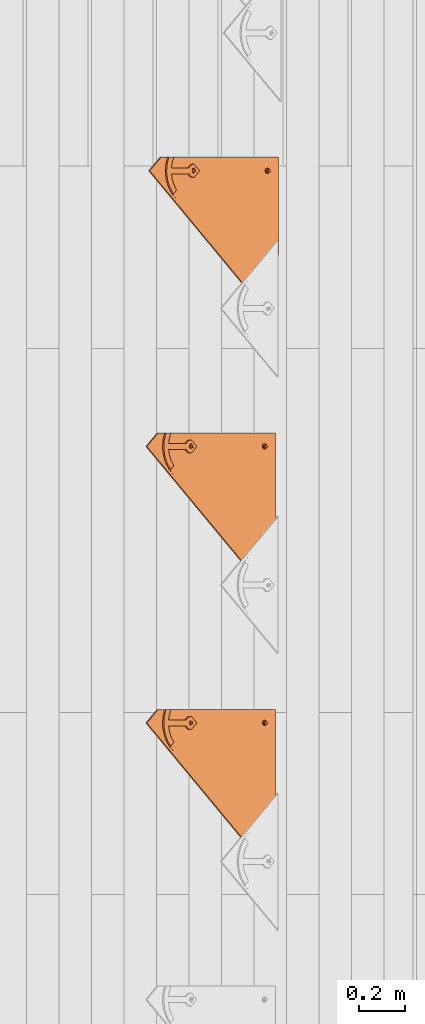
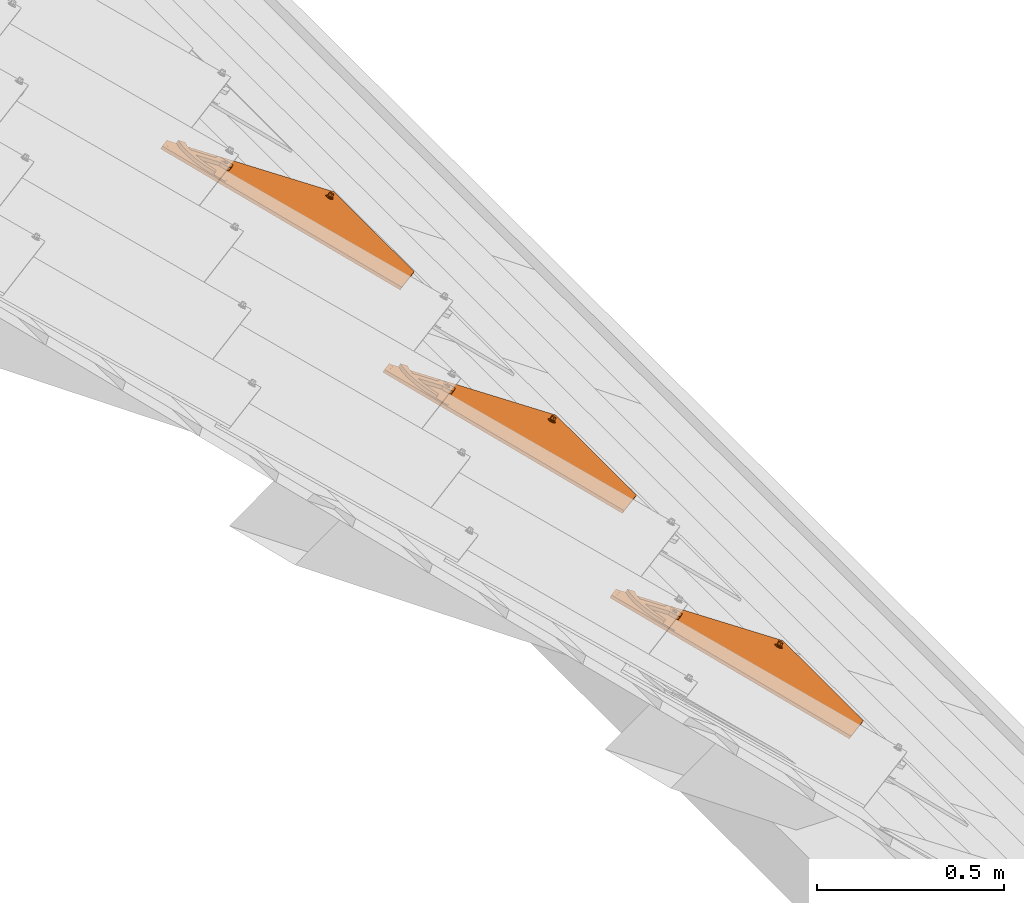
# One storey, part 117 of 133: 3 proxies.
"""IFC2X3 building model written with IfcOpenShell, lengths in millimetres."""

import ifcopenshell
import ifcopenshell.guid

model = None  # the IFC model being written
_history = None  # IfcOwnerHistory: only IFC2X3 demands one
_inside = {}  # id of a spatial element -> (the spatial element, [elements in it])
_under = {}  # id of a project, library or spatial element -> (it, [spatial elements below it])
_declared = {}  # id of a project -> (the project, [libraries it declares])
_typed = {}  # id of a type object -> (the type object, [elements of that type])
_made_of = {}  # id of a material, layer set ... -> (it, [elements and type objects made of it])


def new_model(schema):
    """Start an empty IFC model of exactly this schema.

    Asked for "IFC4X3", IfcOpenShell would pick the latest addendum, in which some entities
    have other attributes; the version numbers below select the first issue.
    IFC2X3 requires an IfcOwnerHistory on every rooted entity: one is made here for all.
    """
    global model, _history
    if schema == "IFC4X3":
        model = ifcopenshell.file(schema_version=(4, 3, 0, 0))
    else:
        model = ifcopenshell.file(schema=schema)
    _inside.clear()
    _under.clear()
    _declared.clear()
    _typed.clear()
    _made_of.clear()
    _history = None
    if model.schema == "IFC2X3":
        org = make("IfcOrganization", Name="unknown")
        user = make(
            "IfcPersonAndOrganization",
            ThePerson=make("IfcPerson", FamilyName="unknown"),
            TheOrganization=org,
        )
        app = make(
            "IfcApplication",
            ApplicationDeveloper=org,
            Version="unknown",
            ApplicationFullName="unknown",
            ApplicationIdentifier="unknown",
        )
        _history = make(
            "IfcOwnerHistory",
            OwningUser=user,
            OwningApplication=app,
            ChangeAction="ADDED",
            CreationDate=0,
        )
    return model


def make(cls, **values):
    """One entity of the class cls with the attributes given. An attribute that is None is left unset."""
    return model.create_entity(
        cls, **{name: value for name, value in values.items() if value is not None}
    )


def entity(cls, *values):
    """Any entity or typed value of the class cls, its attributes in the order of the schema. None: left unset."""
    e = model.create_entity(cls)
    for i, value in enumerate(values):
        if value is not None:
            e[i] = value
    return e


def rooted(cls, **values):
    """An entity with a GlobalId (a new one), such as an element, a storey or a relation."""
    return make(cls, GlobalId=ifcopenshell.guid.new(), OwnerHistory=_history, **values)


def si_unit(unit_type, name, prefix=None):
    """IfcSIUnit, for example si_unit("LENGTHUNIT", "METRE", prefix="MILLI")."""
    return make("IfcSIUnit", UnitType=unit_type, Prefix=prefix, Name=name)


def converted_unit(unit_type, name, factor, base, dimensions=None, offset=None):
    """IfcConversionBasedUnit, such as the inch: factor (a typed value) times the base unit."""
    return make(
        "IfcConversionBasedUnit"
        if offset is None
        else "IfcConversionBasedUnitWithOffset",
        ConversionOffset=offset,
        Dimensions=None
        if dimensions is None
        else entity("IfcDimensionalExponents", *dimensions),
        UnitType=unit_type,
        Name=name,
        ConversionFactor=make(
            "IfcMeasureWithUnit", ValueComponent=factor, UnitComponent=base
        ),
    )


def derived_unit(unit_type, elements):
    """IfcDerivedUnit: a product of units, each with its exponent."""
    return make(
        "IfcDerivedUnit",
        Elements=[
            make("IfcDerivedUnitElement", Unit=unit, Exponent=power)
            for unit, power in elements
        ],
        UnitType=unit_type,
    )


def assignment(units):
    """IfcUnitAssignment: the units of a project."""
    return None if units is None else make("IfcUnitAssignment", Units=units)


def point(xyz):
    """IfcCartesianPoint."""
    return None if xyz is None else make("IfcCartesianPoint", Coordinates=xyz)


def direction(xyz):
    """IfcDirection."""
    return None if xyz is None else make("IfcDirection", DirectionRatios=xyz)


def frame(location, z_axis=None, x_axis=None):
    """IfcAxis2Placement3D, a coordinate frame: its origin and axes. An axis left out is left unset."""
    return make(
        "IfcAxis2Placement3D",
        Location=point(location),
        Axis=direction(z_axis),
        RefDirection=direction(x_axis),
    )


def origin():
    """The frame at (0, 0, 0) with its axes left unset."""
    return frame((0.0, 0.0, 0.0))


def place(relative_to, where):
    """IfcLocalPlacement: puts the frame where relative to a parent placement (None: the world)."""
    return make(
        "IfcLocalPlacement", PlacementRelTo=relative_to, RelativePlacement=where
    )


def context(
    kind, dimensions, precision=None, world=None, true_north=None, identifier=None
):
    """IfcGeometricRepresentationContext, for example the 3D "Model" context."""
    return make(
        "IfcGeometricRepresentationContext",
        ContextIdentifier=identifier,
        ContextType=kind,
        CoordinateSpaceDimension=dimensions,
        Precision=precision,
        WorldCoordinateSystem=world,
        TrueNorth=true_north,
    )


def subcontext(parent, identifier, kind, view, scale=None):
    """IfcGeometricRepresentationSubContext, for example "Body" below "Model"."""
    return make(
        "IfcGeometricRepresentationSubContext",
        ContextIdentifier=identifier,
        ContextType=kind,
        ParentContext=parent,
        TargetScale=scale,
        TargetView=view,
    )


def project(units=None, contexts=None):
    """IfcProject with its units and contexts."""
    return rooted(
        "IfcProject",
        Name="project",
        RepresentationContexts=contexts,
        UnitsInContext=assignment(units),
    )


def spatial(cls, under=None, at=None, **own):
    """A site, building, storey or space (cls), placed at a placement, below another one or the project."""
    s = rooted(cls, ObjectPlacement=at, **own)
    if under is not None:
        _under.setdefault(under.id(), (under, []))[1].append(s)
    return s


def faces_of(points, faces, orient=None, outer=None):
    """IfcFace entities. A face is a list of loops; a loop is a list of indices into points, from 0.

    orient and outer hold one flag for each loop. By default every Orientation is true, the
    first loop of a face is its IfcFaceOuterBound and the others are IfcFaceBound.
    """
    made = []
    for i, loops in enumerate(faces):
        bounds = []
        for j, loop in enumerate(loops):
            is_outer = j == 0 if outer is None else outer[i][j]
            bounds.append(
                make(
                    "IfcFaceOuterBound" if is_outer else "IfcFaceBound",
                    Bound=make("IfcPolyLoop", Polygon=[points[k] for k in loop]),
                    Orientation=True if orient is None else orient[i][j],
                )
            )
        made.append(make("IfcFace", Bounds=bounds))
    return made


def faceted_brep(points, faces, orient=None, outer=None, voids=None):
    """IfcFacetedBrep: a solid bounded by flat faces; with voids (closed shells), ...WithVoids."""
    shared = [point(p) for p in points]
    hull = make("IfcClosedShell", CfsFaces=faces_of(shared, faces, orient, outer))
    if voids is None:
        return make("IfcFacetedBrep", Outer=hull)
    return make(
        "IfcFacetedBrepWithVoids",
        Outer=hull,
        Voids=[
            make(cls, CfsFaces=faces_of(shared, fs, o, b)) for cls, fs, o, b in voids
        ],
    )


def shape(context_of_items, identifier, shape_type, items):
    """IfcShapeRepresentation: the items that make up one representation, for example the "Body"."""
    return make(
        "IfcShapeRepresentation",
        ContextOfItems=context_of_items,
        RepresentationIdentifier=identifier,
        RepresentationType=shape_type,
        Items=items,
    )


def source(mapping_origin, context_of_items, identifier, shape_type, items):
    """IfcRepresentationMap: a shape defined once, which mapped items show again and again."""
    return make(
        "IfcRepresentationMap",
        MappingOrigin=mapping_origin,
        MappedRepresentation=shape(context_of_items, identifier, shape_type, items),
    )


def transform(
    local_origin,
    x_axis=None,
    y_axis=None,
    z_axis=None,
    scale=None,
    scale2=None,
    scale3=None,
    uniform=True,
):
    """IfcCartesianTransformationOperator3D, or its non-uniform kind. x_axis, y_axis, z_axis: its Axis1, 2, 3."""
    if uniform:
        return make(
            "IfcCartesianTransformationOperator3D",
            Axis1=direction(x_axis),
            Axis2=direction(y_axis),
            LocalOrigin=point(local_origin),
            Scale=scale,
            Axis3=direction(z_axis),
        )
    return make(
        "IfcCartesianTransformationOperator3DnonUniform",
        Axis1=direction(x_axis),
        Axis2=direction(y_axis),
        LocalOrigin=point(local_origin),
        Scale=scale,
        Axis3=direction(z_axis),
        Scale2=scale2,
        Scale3=scale3,
    )


def mapped(mapping_source, mapping_target):
    """IfcMappedItem: shows the shape of a source again, moved by a transform."""
    return make(
        "IfcMappedItem", MappingSource=mapping_source, MappingTarget=mapping_target
    )


def material(Name=None, Category=None):
    """IfcMaterial."""
    return make("IfcMaterial", Name=Name, Category=Category)


def material_list(materials):
    """IfcMaterialList."""
    return make("IfcMaterialList", Materials=materials)


def made_of(thing, what):
    """Note that an element or type object is made of a material, layer set ...; save() writes the relation."""
    if what is not None:
        _made_of.setdefault(what.id(), (what, []))[1].append(thing)
    return thing


def type_object(cls, material=None, **own):
    """A type object (cls), such as IfcWallType, which elements share."""
    return made_of(rooted(cls, **own), material)


def type_shapes(of_type, sources):
    """Give a type object the sources (RepresentationMaps) that its elements show as mapped items."""
    of_type.RepresentationMaps = sources


def element(
    cls,
    number,
    at=None,
    inside=None,
    cuts=None,
    type_object=None,
    material=None,
    context=None,
    identifier="Body",
    shape_type=None,
    held_by="IfcProductDefinitionShape",
    body=None,
    shapes=None,
    **own,
):
    """One element of the class cls, such as IfcWall. Its Tag is "e" and its number.

    at: its placement. inside: the storey or other place that contains it. cuts: it is an
    opening in that element (IfcRelVoidsElement). A single representation is given by context,
    identifier, shape_type and body (its items); several are given by shapes. held_by: the class
    of the entity that holds the representations. save() writes the other relations.
    """
    e = rooted(cls, Tag="e%d" % number, ObjectPlacement=at, **own)
    if body is not None:
        shapes = [shape(context, identifier, shape_type, body)]
    if shapes is not None:
        e.Representation = make(held_by, Representations=shapes)
    if inside is not None:
        _inside.setdefault(inside.id(), (inside, []))[1].append(e)
    if cuts is not None:
        rooted(
            "IfcRelVoidsElement", RelatingBuildingElement=cuts, RelatedOpeningElement=e
        )
    if type_object is not None:
        _typed.setdefault(type_object.id(), (type_object, []))[1].append(e)
    return made_of(e, material)


def aggregate(whole, parts):
    """IfcRelAggregates: a whole, such as a stair, and the parts it consists of."""
    return rooted("IfcRelAggregates", RelatingObject=whole, RelatedObjects=parts)


def save(model, path):
    """Write the relations noted so far, then the file.

    IfcRelAggregates (storeys below a building ...), IfcRelContainedInSpatialStructure (elements
    in a storey), IfcRelDefinesByType, IfcRelAssociatesMaterial and IfcRelDeclares: one each for
    every whole, place, type object, material and project.
    """
    for whole, parts in _under.values():
        aggregate(whole, parts)
    for where, things in _inside.values():
        rooted(
            "IfcRelContainedInSpatialStructure",
            RelatedElements=things,
            RelatingStructure=where,
        )
    for kind, things in _typed.values():
        rooted("IfcRelDefinesByType", RelatedObjects=things, RelatingType=kind)
    for what, things in _made_of.values():
        rooted("IfcRelAssociatesMaterial", RelatedObjects=things, RelatingMaterial=what)
    for by, libraries in _declared.values():
        rooted("IfcRelDeclares", RelatingContext=by, RelatedDefinitions=libraries)
    model.write(path)


model = new_model("IFC2X3")

# Units and contexts
model_context = context("Model", 3, precision=0.01, world=origin(), true_north=direction((6.12303176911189e-17, 1.0)))
body_context = subcontext(model_context, "Body", "Model", "MODEL_VIEW")
ifc_project = project(units=[si_unit("LENGTHUNIT", "METRE", prefix="MILLI"), si_unit("AREAUNIT", "SQUARE_METRE"), si_unit("VOLUMEUNIT", "CUBIC_METRE"), converted_unit("PLANEANGLEUNIT", "DEGREE", entity("IfcRatioMeasure", 0.0174532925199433), si_unit("PLANEANGLEUNIT", "RADIAN"), dimensions=[0, 0, 0, 0, 0, 0, 0]), si_unit("MASSUNIT", "GRAM", prefix="KILO"), derived_unit("MASSDENSITYUNIT", [(si_unit("MASSUNIT", "GRAM", prefix="KILO"), 1), (si_unit("LENGTHUNIT", "METRE"), -3)]), si_unit("TIMEUNIT", "SECOND"), si_unit("FREQUENCYUNIT", "HERTZ"), si_unit("THERMODYNAMICTEMPERATUREUNIT", "DEGREE_CELSIUS"), derived_unit("THERMALTRANSMITTANCEUNIT", [(si_unit("MASSUNIT", "GRAM", prefix="KILO"), 1), (si_unit("THERMODYNAMICTEMPERATUREUNIT", "KELVIN"), -1), (si_unit("TIMEUNIT", "SECOND"), -3)]), derived_unit("VOLUMETRICFLOWRATEUNIT", [(si_unit("LENGTHUNIT", "METRE"), 3), (si_unit("TIMEUNIT", "SECOND"), -1)]), si_unit("ELECTRICCURRENTUNIT", "AMPERE"), si_unit("ELECTRICVOLTAGEUNIT", "VOLT"), si_unit("POWERUNIT", "WATT"), si_unit("FORCEUNIT", "NEWTON", prefix="KILO"), si_unit("ILLUMINANCEUNIT", "LUX"), si_unit("LUMINOUSFLUXUNIT", "LUMEN"), si_unit("LUMINOUSINTENSITYUNIT", "CANDELA"), derived_unit("USERDEFINED", [(si_unit("MASSUNIT", "GRAM", prefix="KILO"), -1), (si_unit("LENGTHUNIT", "METRE"), -2), (si_unit("TIMEUNIT", "SECOND"), 3), (si_unit("LUMINOUSFLUXUNIT", "LUMEN"), 1)]), derived_unit("LINEARVELOCITYUNIT", [(si_unit("LENGTHUNIT", "METRE"), 1), (si_unit("TIMEUNIT", "SECOND"), -1)]), si_unit("PRESSUREUNIT", "PASCAL"), derived_unit("USERDEFINED", [(si_unit("LENGTHUNIT", "METRE"), -2), (si_unit("MASSUNIT", "GRAM", prefix="KILO"), 1), (si_unit("TIMEUNIT", "SECOND"), -2)])], contexts=[model_context])

# Site, building, storey
site_placement = place(None, origin())
site = spatial("IfcSite", under=ifc_project, at=site_placement, Name="Default", CompositionType="ELEMENT")
building_placement = place(site_placement, origin())
building = spatial("IfcBuilding", under=site, at=building_placement, CompositionType="ELEMENT")
storey_placement = place(building_placement, origin())
storey = spatial("IfcBuildingStorey", under=building, at=storey_placement, Name="Level 1", CompositionType="ELEMENT", Elevation=0.0)

# Proxies
ifc_material_1 = material(Name="Rubber - Sunstyle - Black")
ifc_material_2 = material(Name="Glass - Sunstyle - Tainted Black")
ifc_material_list_1 = material_list([ifc_material_1, ifc_material_2])
ifc_material_list_2 = material_list([ifc_material_1, ifc_material_2])
building_element_proxy_type = type_object("IfcBuildingElementProxyType", Name="Corner Bottom Big Right - Black", PredefinedType="NOTDEFINED", material=ifc_material_list_2)
shared_shape = source(origin(), body_context, "Body", "Brep", [
    faceted_brep([(0.270009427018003, -2.025866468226, -4.01619789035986), (-5.50419340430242, -5.35913660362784, -3.96037390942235), (-5.50419340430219, -4.99082751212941, 18.0314954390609), (0.270009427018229, -1.65755737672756, 17.9756714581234), (-5.50419340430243, -12.0256768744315, -3.84872594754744), (-5.5041934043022, -11.6573677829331, 18.1431434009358), (0.270009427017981, -15.3589470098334, -3.79290196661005), (0.270009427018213, -14.990637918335, 18.1989673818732), (6.04421225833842, -12.0256768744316, -3.84872594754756), (6.04421225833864, -11.6573677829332, 18.1431434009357), (6.04421225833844, -5.35913660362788, -3.96037390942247), (6.04421225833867, -4.99082751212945, 18.0314954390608), (-8.3336947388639, -16.9265954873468, 18.2313898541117), (0.27000942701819, -20.4898667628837, 18.2910657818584), (-11.8974656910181, -8.32409764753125, 18.0873194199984), (-8.33369473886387, 0.278400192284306, 17.9432489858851), (0.270009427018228, 3.84167146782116, 17.8835730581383), (8.87371359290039, 0.278400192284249, 17.9432489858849), (12.4374845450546, -8.32409764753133, 18.0873194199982), (8.87371359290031, -16.9265954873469, 18.2313898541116), (-11.1602134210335, -6.95050198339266, 20.4858706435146), (-9.50050407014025, -8.25322861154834, 22.3189355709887), (0.270009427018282, -0.940007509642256, 22.9603444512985), (0.27000942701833, 0.300490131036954, 22.3799978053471), (0.270009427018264, 2.4580409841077, 21.3706227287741), (-6.05323627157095, -4.59022324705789, 23.0214764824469), (-6.05323627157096, -11.8906547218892, 23.1437405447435), (0.270009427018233, -18.990246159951, 21.7298281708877), (0.270009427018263, -15.5408704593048, 23.2048725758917), (11.2551842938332, -12.0411541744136, 20.3827540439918), (10.3938597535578, -8.25726753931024, 22.077768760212), (6.59325512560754, -4.59022324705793, 23.0214764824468), (6.5932551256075, -11.8906547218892, 23.1437405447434), (-6.05323627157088, -11.7566262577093, 31.1466287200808), (0.270009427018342, -15.4068419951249, 31.207760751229), (0.270009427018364, -8.10641052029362, 31.0854966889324), (-6.05323627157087, -4.456194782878, 31.0243646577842), (6.59325512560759, -11.7566262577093, 31.1466287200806), (6.59325512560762, -4.45619478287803, 31.024364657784), (0.270009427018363, -0.805979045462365, 30.9632326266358), (0.270009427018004, -8.69240673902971, -3.90454992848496)], [[[0, 1, 2, 3]], [[1, 4, 5, 2]], [[4, 6, 7, 5]], [[6, 8, 9, 7]], [[8, 10, 11, 9]], [[10, 0, 3, 11]], [[12, 7, 13]], [[7, 12, 5]], [[14, 5, 12]], [[5, 14, 2]], [[15, 2, 14]], [[3, 2, 15]], [[15, 16, 3]], [[16, 17, 3]], [[11, 3, 17]], [[11, 17, 18]], [[9, 11, 18]], [[18, 19, 9]], [[7, 9, 19]], [[19, 13, 7]], [[15, 20, 16]], [[21, 22, 23, 24]], [[22, 21, 25]], [[20, 14, 12]], [[15, 14, 20]], [[25, 21, 26]], [[20, 24, 16]], [[12, 13, 27]], [[12, 27, 20]], [[21, 28, 26]], [[21, 27, 28]], [[20, 21, 24]], [[20, 27, 21]], [[19, 29, 13]], [[30, 23, 31]], [[30, 28, 27]], [[24, 23, 30]], [[29, 27, 13]], [[19, 18, 29]], [[29, 30, 27]], [[29, 17, 24]], [[24, 17, 16]], [[31, 32, 30]], [[23, 22, 31]], [[28, 30, 32]], [[29, 24, 30]], [[29, 18, 17]], [[33, 34, 35]], [[35, 36, 33]], [[34, 37, 35]], [[38, 35, 37]], [[35, 38, 39]], [[35, 39, 36]], [[40, 6, 4]], [[4, 1, 40]], [[1, 0, 40]], [[40, 8, 6]], [[0, 10, 40]], [[8, 40, 10]], [[22, 25, 36, 39]], [[25, 26, 33, 36]], [[26, 28, 34, 33]], [[28, 32, 37, 34]], [[32, 31, 38, 37]], [[31, 22, 39, 38]]]),
    faceted_brep([(-518.247351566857, 79.9143812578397, 14.9652572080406), (-518.247351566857, 79.9394990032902, 16.4650468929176), (-526.732038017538, 88.4241854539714, 16.3229495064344), (-526.732038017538, 88.399067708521, 14.8231598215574), (-0.00032251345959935, 614.98308737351, 6.00418773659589), (60.1037538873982, 554.895864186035, 7.01049921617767), (51.6190674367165, 546.411177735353, 7.15259660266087), (-0.000322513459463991, 598.016093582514, 6.28834266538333), (-0.000322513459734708, 615.00820511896, 7.50397742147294), (-0.000322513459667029, 598.041211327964, 7.78813235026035), (51.6190674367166, 546.436295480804, 8.65238628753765), (60.1037538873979, 554.920981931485, 8.51028890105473)], [[[0, 1, 2, 3]], [[0, 3, 4, 5, 6, 7]], [[3, 2, 8, 4]], [[2, 1, 9, 10, 11, 8]], [[1, 0, 7, 9]], [[6, 5, 11, 10]], [[4, 8, 11, 5]], [[9, 7, 6, 10]]]),
    faceted_brep([(0.0, 372.774440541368, 20.3195200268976), (0.0, 377.273809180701, 20.2441667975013), (-8.60370416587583, 376.337711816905, 20.2598440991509), (8.60370416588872, 376.337711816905, 20.2598440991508), (6.64022859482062, 381.107009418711, 20.1799702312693), (12.1674751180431, 384.940209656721, 20.1157736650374), (6.64022859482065, 388.773409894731, 20.0515770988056), (8.6037041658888, 393.542707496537, 19.9717032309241), (0.0, 392.606610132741, 19.9873805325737), (0.0, 397.105978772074, 19.9120273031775), (-8.60370416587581, 393.542707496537, 19.9717032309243), (-6.64022859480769, 388.773409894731, 20.0515770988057), (-12.1674751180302, 384.940209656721, 20.1157736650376), (-6.6402285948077, 381.107009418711, 20.1799702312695), (-6.6402282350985, 388.505487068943, 4.05382046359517), (0.0, 392.338687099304, 3.98962390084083), (-6.64022823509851, 380.839087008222, 4.18221358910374), (0.0, 377.005886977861, 4.24641015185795), (6.64022823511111, 380.839087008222, 4.1822135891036), (6.64022823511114, 388.505487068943, 4.05382046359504), (-8.603704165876, 376.069789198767, 4.26208746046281), (0.0, 372.50651792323, 4.32176338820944), (-12.1674751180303, 384.672287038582, 4.11801702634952), (-8.60370416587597, 393.274784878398, 3.97394659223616), (0.0, 396.838056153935, 3.91427066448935), (8.60370416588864, 393.274784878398, 3.97394659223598), (12.1674751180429, 384.672287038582, 4.11801702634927), (8.60370416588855, 376.069789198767, 4.26208746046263)], [[[0, 1, 2]], [[1, 0, 3]], [[3, 4, 1]], [[4, 3, 5]], [[6, 4, 5]], [[5, 7, 6]], [[7, 8, 6]], [[8, 7, 9]], [[8, 9, 10]], [[10, 11, 8]], [[12, 11, 10]], [[2, 13, 12]], [[12, 13, 11]], [[13, 2, 1]], [[8, 11, 14, 15]], [[11, 13, 16, 14]], [[13, 1, 17, 16]], [[1, 4, 18, 17]], [[4, 6, 19, 18]], [[6, 8, 15, 19]], [[20, 17, 21]], [[17, 20, 16]], [[22, 16, 20]], [[14, 16, 22]], [[23, 14, 22]], [[15, 14, 23]], [[23, 24, 15]], [[24, 25, 15]], [[19, 15, 25]], [[19, 25, 26]], [[26, 18, 19]], [[26, 27, 18]], [[17, 18, 27]], [[27, 21, 17]], [[24, 23, 10, 9]], [[10, 23, 22, 12]], [[20, 21, 0, 2]], [[20, 2, 12, 22]], [[21, 27, 3, 0]], [[3, 27, 26, 5]], [[25, 24, 9, 7]], [[25, 7, 5, 26]]]),
    faceted_brep([(-10.3923048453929, 390.78484910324, 9.75895037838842), (-8.48528137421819, 393.269782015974, 9.7173339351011), (-0.00032251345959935, 614.983087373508, 6.0041877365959), (-11.5911099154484, 387.891083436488, 9.8074137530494), (-6.0, 395.176538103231, 9.68540051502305), (-3.10582854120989, 396.37517508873, 9.6653263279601), (60.1037538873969, 554.895864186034, 7.01049921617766), (0.0, 396.784007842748, 9.65847939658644), (3.1058285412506, 396.37517508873, 9.6653263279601), (6.0, 395.176538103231, 9.68540051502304), (8.48528137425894, 393.269782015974, 9.7173339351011), (10.3923048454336, 390.784849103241, 9.75895037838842), (11.5911099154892, 387.891083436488, 9.8074137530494), (12.0, 384.785690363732, 9.8594213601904), (11.5911099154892, 381.680297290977, 9.9114289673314), (60.103753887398, -67.933460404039, 17.4413406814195), (10.3923048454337, 378.786531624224, 9.95989234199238), (6.58173564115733, -3.94243384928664, 16.369650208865), (8.48528137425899, 376.301598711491, 10.0015087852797), (5.31038666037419, -2.28581190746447, 16.3419059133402), (6.0, 374.394842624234, 10.0334422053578), (3.65353241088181, -1.01464118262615, 16.3206169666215), (3.10582854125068, 373.196205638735, 10.0535163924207), (1.72408477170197, -0.215549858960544, 16.3072341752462), (0.0, 372.787372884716, 10.0603633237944), (-0.346467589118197, 0.0570053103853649, 16.3026695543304), (-2.41701994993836, -0.215549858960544, 16.3072341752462), (-3.10582854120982, 373.196205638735, 10.0535163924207), (-4.34646758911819, -1.01464118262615, 16.3206169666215), (-6.0, 374.394842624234, 10.0334422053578), (-6.00332183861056, -2.28581190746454, 16.3419059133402), (-8.48528137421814, 376.301598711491, 10.0015087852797), (-370.355661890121, -67.9334604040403, 17.4413406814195), (-10.3923048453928, 378.786531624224, 9.95989234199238), (-526.732038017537, 88.3990677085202, 14.8231598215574), (-11.5911099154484, 381.680297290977, 9.9114289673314), (-12.0, 384.785690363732, 9.8594213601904), (-7.27467081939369, -3.94243384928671, 16.369650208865), (-8.07387419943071, -5.87161096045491, 16.4019591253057), (-8.34646758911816, -7.94187300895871, 16.4366308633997), (-8.0738741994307, -10.0121350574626, 16.4713026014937), (-7.27467081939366, -11.9413121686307, 16.5036115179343), (-6.00332183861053, -13.5979341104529, 16.5313558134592), (-4.34646758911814, -14.8691048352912, 16.5526447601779), (-2.41701994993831, -15.6681961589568, 16.5660275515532), (7.38093902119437, -5.87161096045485, 16.4019591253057), (7.65353241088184, -7.94187300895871, 16.4366308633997), (7.38093902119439, -10.0121350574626, 16.4713026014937), (6.58173564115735, -11.9413121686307, 16.5036115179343), (5.31038666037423, -13.5979341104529, 16.5313558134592), (3.65353241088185, -14.8691048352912, 16.5526447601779), (1.72408477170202, -15.6681961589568, 16.5660275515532), (-0.346467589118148, -15.9407513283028, 16.570592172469), (-370.355661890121, -68.0590491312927, 9.94239225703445), (-8.0738741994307, -10.1377237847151, 8.97235417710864), (-7.27467081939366, -12.0669008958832, 9.00466309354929), (-8.34646758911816, -8.06746173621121, 8.93768243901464), (-6.00332183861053, -13.7235228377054, 9.03240738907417), (-4.34646758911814, -14.9946935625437, 9.05369633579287), (60.103753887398, -68.0590491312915, 9.94239225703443), (-8.07387419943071, -5.99719968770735, 8.90301070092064), (-7.27467081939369, -4.06802257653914, 8.87070178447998), (-6.00332183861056, -2.41140063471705, 8.8429574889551), (-8.48528137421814, 376.176009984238, 2.50256036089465), (-10.3923048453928, 378.660942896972, 2.46094391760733), (-526.732038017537, 88.2734789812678, 7.32421139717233), (-11.5911099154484, 381.554708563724, 2.41248054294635), (-12.0, 384.66010163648, 2.36047293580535), (-11.5911099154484, 387.765494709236, 2.30846532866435), (-0.00032251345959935, 614.857498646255, -1.49476068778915), (-10.3923048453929, 390.659260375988, 2.26000195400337), (-8.48528137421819, 393.144193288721, 2.21838551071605), (-6.0, 395.050949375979, 2.18645209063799), (-3.10582854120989, 396.249586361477, 2.16637790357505), (60.1037538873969, 554.770275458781, -0.488449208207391), (0.0, 396.658419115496, 2.15953097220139), (3.1058285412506, 396.249586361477, 2.16637790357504), (6.0, 395.050949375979, 2.18645209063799), (8.48528137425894, 393.144193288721, 2.21838551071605), (10.3923048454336, 390.659260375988, 2.26000195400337), (11.5911099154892, 387.765494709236, 2.30846532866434), (12.0, 384.66010163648, 2.36047293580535), (11.5911099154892, 381.554708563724, 2.41248054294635), (-2.41701994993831, -15.7937848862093, 9.06707912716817), (-0.346467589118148, -16.0663400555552, 9.07164374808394), (1.72408477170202, -15.7937848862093, 9.06707912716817), (3.65353241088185, -14.9946935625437, 9.05369633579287), (5.31038666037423, -13.7235228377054, 9.03240738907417), (6.58173564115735, -12.0669008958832, 9.00466309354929), (7.38093902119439, -10.1377237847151, 8.97235417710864), (7.65353241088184, -8.06746173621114, 8.93768243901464), (7.38093902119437, -5.99719968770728, 8.90301070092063), (6.58173564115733, -4.06802257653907, 8.87070178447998), (10.3923048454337, 378.660942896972, 2.46094391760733), (-6.0, 374.269253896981, 2.5344937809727), (-4.34646758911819, -1.14022990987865, 8.8216685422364), (-3.10582854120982, 373.070616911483, 2.55456796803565), (-2.41701994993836, -0.341138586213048, 8.8082857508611), (0.0, 372.661784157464, 2.56141489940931), (-0.346467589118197, -0.0685834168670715, 8.80372112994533), (1.72408477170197, -0.341138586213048, 8.8082857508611), (3.10582854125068, 373.070616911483, 2.55456796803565), (3.65353241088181, -1.14022990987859, 8.8216685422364), (6.0, 374.269253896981, 2.5344937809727), (5.31038666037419, -2.41140063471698, 8.8429574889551), (8.48528137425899, 376.176009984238, 2.50256036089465)], [[[0, 1, 2]], [[3, 0, 2]], [[4, 2, 1]], [[2, 4, 5]], [[6, 2, 5]], [[7, 6, 5]], [[7, 8, 6]], [[8, 9, 6]], [[10, 6, 9]], [[6, 10, 11]], [[6, 11, 12]], [[12, 13, 6]], [[13, 14, 6]], [[6, 14, 15]], [[14, 16, 15]], [[17, 15, 16]], [[18, 17, 16]], [[17, 18, 19]], [[18, 20, 19]], [[21, 19, 20]], [[20, 22, 21]], [[23, 21, 22]], [[24, 23, 22]], [[23, 24, 25]], [[26, 25, 24]], [[24, 27, 26]], [[26, 27, 28]], [[29, 28, 27]], [[28, 29, 30]], [[29, 31, 30]], [[32, 30, 31]], [[33, 32, 31]], [[33, 34, 32]], [[33, 35, 34]], [[35, 36, 34]], [[36, 3, 34]], [[3, 2, 34]], [[30, 32, 37]], [[37, 32, 38]], [[32, 39, 38]], [[39, 32, 40]], [[40, 32, 41]], [[42, 41, 32]], [[42, 32, 43]], [[43, 32, 15]], [[15, 44, 43]], [[17, 45, 15]], [[45, 46, 15]], [[47, 15, 46]], [[47, 48, 15]], [[49, 15, 48]], [[15, 49, 50]], [[50, 51, 15]], [[51, 52, 15]], [[52, 44, 15]], [[53, 54, 55]], [[54, 53, 56]], [[53, 55, 57]], [[57, 58, 53]], [[53, 58, 59]], [[60, 56, 53]], [[61, 60, 53]], [[61, 53, 62]], [[63, 62, 53]], [[64, 63, 53]], [[65, 64, 53]], [[65, 66, 64]], [[66, 65, 67]], [[67, 65, 68]], [[65, 69, 68]], [[70, 68, 69]], [[71, 70, 69]], [[72, 71, 69]], [[69, 73, 72]], [[74, 73, 69]], [[75, 73, 74]], [[76, 75, 74]], [[77, 76, 74]], [[74, 78, 77]], [[78, 74, 79]], [[80, 79, 74]], [[80, 74, 81]], [[82, 81, 74]], [[82, 74, 59]], [[59, 58, 83]], [[84, 59, 83]], [[84, 85, 59]], [[85, 86, 59]], [[87, 59, 86]], [[59, 87, 88]], [[59, 88, 89]], [[89, 90, 59]], [[90, 91, 59]], [[91, 92, 59]], [[92, 93, 59]], [[93, 82, 59]], [[94, 62, 63]], [[94, 95, 62]], [[96, 95, 94]], [[97, 95, 96]], [[96, 98, 97]], [[99, 97, 98]], [[99, 98, 100]], [[101, 100, 98]], [[102, 100, 101]], [[103, 102, 101]], [[104, 102, 103]], [[103, 105, 104]], [[105, 92, 104]], [[105, 93, 92]], [[36, 67, 68, 3]], [[3, 68, 70, 0]], [[4, 1, 71, 72]], [[70, 71, 1, 0]], [[5, 4, 72, 73]], [[75, 7, 5, 73]], [[8, 76, 77, 9]], [[9, 77, 78, 10]], [[12, 11, 79, 80]], [[78, 79, 11, 10]], [[13, 12, 80, 81]], [[8, 7, 75, 76]], [[13, 81, 82, 14]], [[14, 82, 93, 16]], [[20, 18, 105, 103]], [[93, 105, 18, 16]], [[22, 20, 103, 101]], [[98, 24, 22, 101]], [[27, 96, 94, 29]], [[29, 94, 63, 31]], [[35, 33, 64, 66]], [[63, 64, 33, 31]], [[36, 35, 66, 67]], [[27, 24, 98, 96]], [[34, 2, 69, 65]], [[32, 34, 65, 53]], [[15, 32, 53, 59]], [[6, 15, 59, 74]], [[2, 6, 74, 69]], [[39, 56, 60, 38]], [[38, 60, 61, 37]], [[28, 30, 62, 95]], [[62, 30, 37, 61]], [[26, 28, 95, 97]], [[26, 97, 99, 25]], [[25, 99, 100, 23]], [[23, 100, 102, 21]], [[17, 19, 104, 92]], [[104, 19, 21, 102]], [[45, 17, 92, 91]], [[45, 91, 90, 46]], [[46, 90, 89, 47]], [[47, 89, 88, 48]], [[50, 49, 87, 86]], [[87, 49, 48, 88]], [[51, 50, 86, 85]], [[51, 85, 84, 52]], [[52, 84, 83, 44]], [[44, 83, 58, 43]], [[41, 42, 57, 55]], [[57, 42, 43, 58]], [[40, 41, 55, 54]], [[40, 54, 56, 39]]]),
    faceted_brep([(-114.2509690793, 483.839345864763, 10.7008696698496), (-128.946713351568, 469.147722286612, 10.9469178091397), (-111.269043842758, 451.472531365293, 11.2429332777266), (-84.944396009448, 477.793488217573, 10.8021227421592), (-102.027571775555, 494.874268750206, 10.5160621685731), (-108.279973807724, 489.512620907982, 10.6058564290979), (0.0, 355.735286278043, 10.3459433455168), (0.0, 373.122276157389, 10.0547545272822), (3.10582854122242, 373.531108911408, 10.0479075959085), (-3.10582854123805, 373.531108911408, 10.0479075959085), (6.0, 374.729745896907, 10.0278334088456), (8.48528137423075, 376.636501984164, 9.99589998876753), (29.3894280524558, 385.120593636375, 9.85381256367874), (-6.0, 374.729745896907, 10.0278334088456), (-8.4852813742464, 376.636501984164, 9.99589998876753), (-29.3894280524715, 385.120593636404, 9.85381256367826), (-10.3923048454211, 379.121434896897, 9.95428354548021), (-11.5911099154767, 382.01520056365, 9.90582017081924), (-12.0, 385.120593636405, 9.85381256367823), (-28.6795527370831, 391.540108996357, 9.74630165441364), (-11.5911099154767, 388.225986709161, 9.80180495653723), (-26.5842195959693, 397.649509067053, 9.64398440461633), (-10.3923048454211, 391.119752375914, 9.75334158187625), (-23.204650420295, 403.153659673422, 9.55180357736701), (-8.48528137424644, 393.604685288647, 9.71172513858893), (-18.704106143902, 407.786665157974, 9.47421226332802), (-6.0, 395.511441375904, 9.67979171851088), (-13.3000000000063, 411.324713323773, 9.41495875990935), (-3.10582854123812, 396.710078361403, 9.65971753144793), (0.0, 397.118911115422, 9.65287060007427), (13.2999999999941, 411.324713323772, 9.41495875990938), (-13.3000000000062, 505.643535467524, 7.83535317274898), (13.2999999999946, 505.643535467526, 7.83535317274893), (-7.21723712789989, 530.953901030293, 7.41146752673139), (-41.1626974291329, 525.784666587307, 7.49803934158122), (-38.7697427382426, 500.828655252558, 7.91599043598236), (-73.2491712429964, 513.560140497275, 7.70276973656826), (-62.9243331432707, 491.42502143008, 8.07347790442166), (-84.9431983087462, 477.752822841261, 8.30245321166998), (-102.027571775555, 494.832405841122, 8.01641269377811), (-108.279973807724, 489.470757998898, 8.10620695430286), (-114.2509690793, 483.79748295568, 8.20122019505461), (-111.269043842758, 451.430668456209, 8.74328380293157), (-128.946713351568, 469.105859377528, 8.44726833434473), (27.0541674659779, 528.834391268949, 7.44696404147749), (37.2599857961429, 501.252149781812, 7.90889795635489), (60.1037538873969, 519.521858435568, 7.60292579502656), (60.1037538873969, 492.795625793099, 8.05052369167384), (3.10582854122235, 396.710078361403, 9.65971753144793), (6.0, 395.511441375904, 9.67979171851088), (18.7041061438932, 407.786665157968, 9.47421226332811), (8.48528137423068, 393.604685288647, 9.71172513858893), (23.2046504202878, 403.153659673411, 9.55180357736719), (10.3923048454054, 391.119752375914, 9.75334158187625), (26.5842195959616, 397.649509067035, 9.64398440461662), (11.591109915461, 388.225986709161, 9.80180495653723), (28.6795527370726, 391.540108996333, 9.74630165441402), (12.0, 385.120593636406, 9.85381256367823), (11.591109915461, 382.01520056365, 9.90582017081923), (10.3923048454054, 379.121434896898, 9.95428354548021), (-38.7697427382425, 500.996106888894, 17.9145883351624), (-41.1626974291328, 525.952118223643, 17.4966372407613), (-73.2491712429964, 513.727592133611, 17.7013676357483), (-62.9243331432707, 491.592473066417, 18.0720758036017), (-13.3000000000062, 505.810987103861, 17.833951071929), (-7.21723712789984, 531.121352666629, 17.4100654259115), (13.2999999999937, 505.810987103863, 17.833951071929), (-13.3000000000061, 411.49216496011, 19.4135566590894), (13.2999999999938, 411.492164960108, 19.4135566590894), (0.0, 397.286362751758, 19.6514684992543), (-3.10582854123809, 396.877529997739, 19.658315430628), (-6.0, 395.678893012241, 19.6783896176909), (-18.7041061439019, 407.954116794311, 19.4728101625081), (-8.48528137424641, 393.772136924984, 19.710323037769), (-23.2046504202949, 403.321111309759, 19.5504014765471), (-10.3923048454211, 391.28720401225, 19.7519394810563), (-26.5842195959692, 397.816960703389, 19.6425823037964), (-11.5911099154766, 388.393438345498, 19.8004028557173), (-28.6795527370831, 391.707560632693, 19.7448995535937), (-12.0, 385.288045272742, 19.8524104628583), (-29.3894280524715, 385.28804527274, 19.8524104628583), (-11.5911099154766, 382.182652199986, 19.9044180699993), (-10.3923048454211, 379.288886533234, 19.9528814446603), (-8.48528137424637, 376.803953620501, 19.9944978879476), (0.0, 355.902737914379, 20.3445412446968), (-6.0, 374.897197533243, 20.0264313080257), (-3.10582854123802, 373.698560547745, 20.0465054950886), (0.0, 373.289727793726, 20.0533524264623), (3.10582854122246, 373.698560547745, 20.0465054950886), (6.0, 374.897197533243, 20.0264313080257), (8.48528137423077, 376.803953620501, 19.9944978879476), (29.3894280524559, 385.288045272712, 19.8524104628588), (10.3923048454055, 379.288886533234, 19.9528814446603), (11.591109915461, 382.182652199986, 19.9044180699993), (12.0, 385.288045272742, 19.8524104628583), (28.6795527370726, 391.70756063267, 19.7448995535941), (11.591109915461, 388.393438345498, 19.8004028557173), (26.5842195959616, 397.816960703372, 19.6425823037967), (10.3923048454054, 391.28720401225, 19.7519394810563), (23.2046504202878, 403.321111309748, 19.5504014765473), (8.48528137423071, 393.772136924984, 19.710323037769), (18.7041061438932, 407.954116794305, 19.4728101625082), (6.0, 395.678893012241, 19.6783896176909), (3.10582854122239, 396.877529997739, 19.658315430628), (27.0541674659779, 529.001842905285, 17.4455619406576), (37.259985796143, 501.419601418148, 17.907495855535), (60.1037538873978, 519.689310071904, 17.6015236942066), (60.1037538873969, 492.963077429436, 18.0491215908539), (-84.9443960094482, 477.919076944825, 18.3010711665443), (-102.027571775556, 494.999857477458, 18.0150105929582)], [[[0, 1, 2, 3, 4, 5]], [[6, 7, 8]], [[7, 6, 9]], [[6, 8, 10]], [[10, 11, 6]], [[6, 11, 12]], [[13, 9, 6]], [[14, 13, 6]], [[14, 6, 15]], [[15, 16, 14]], [[16, 15, 17]], [[17, 15, 18]], [[19, 18, 15]], [[20, 18, 19]], [[19, 21, 20]], [[20, 21, 22]], [[23, 22, 21]], [[23, 24, 22]], [[23, 25, 24]], [[25, 26, 24]], [[26, 25, 27]], [[28, 26, 27]], [[27, 29, 28]], [[30, 29, 27]], [[30, 27, 31]], [[30, 31, 32]], [[31, 33, 32]], [[33, 31, 34]], [[35, 34, 31]], [[34, 35, 36]], [[37, 36, 35]], [[37, 38, 36]], [[36, 38, 39]], [[40, 39, 38]], [[40, 38, 41]], [[38, 42, 41]], [[42, 43, 41]], [[32, 33, 44]], [[44, 45, 32]], [[45, 44, 46]], [[46, 47, 45]], [[48, 29, 30]], [[30, 49, 48]], [[49, 30, 50]], [[50, 51, 49]], [[50, 52, 51]], [[51, 52, 53]], [[54, 53, 52]], [[54, 55, 53]], [[56, 55, 54]], [[57, 55, 56]], [[12, 57, 56]], [[58, 57, 12]], [[12, 11, 59]], [[58, 12, 59]], [[1, 0, 41, 43]], [[2, 1, 43, 42]], [[4, 39, 40, 5]], [[40, 41, 0, 5]], [[3, 2, 42, 38]], [[60, 61, 62]], [[63, 60, 62]], [[64, 61, 60]], [[61, 64, 65]], [[66, 65, 64]], [[66, 64, 67]], [[66, 67, 68]], [[68, 67, 69]], [[67, 70, 69]], [[71, 70, 67]], [[71, 67, 72]], [[72, 73, 71]], [[73, 72, 74]], [[73, 74, 75]], [[74, 76, 75]], [[75, 76, 77]], [[78, 77, 76]], [[78, 79, 77]], [[78, 80, 79]], [[79, 80, 81]], [[82, 81, 80]], [[83, 82, 80]], [[83, 80, 84]], [[85, 83, 84]], [[86, 85, 84]], [[87, 86, 84]], [[87, 84, 88]], [[89, 88, 84]], [[89, 84, 90]], [[91, 90, 84]], [[92, 90, 91]], [[91, 93, 92]], [[93, 91, 94]], [[95, 94, 91]], [[95, 96, 94]], [[95, 97, 96]], [[96, 97, 98]], [[99, 98, 97]], [[98, 99, 100]], [[100, 99, 101]], [[101, 68, 102]], [[100, 101, 102]], [[102, 68, 103]], [[103, 68, 69]], [[66, 104, 65]], [[105, 104, 66]], [[105, 106, 104]], [[106, 105, 107]], [[108, 63, 62]], [[62, 109, 108]], [[66, 68, 30, 32]], [[95, 91, 12, 56]], [[97, 95, 56, 54]], [[54, 52, 99, 97]], [[101, 99, 52, 50]], [[68, 101, 50, 30]], [[91, 84, 6, 12]], [[84, 80, 15, 6]], [[72, 67, 27, 25]], [[74, 72, 25, 23]], [[23, 21, 76, 74]], [[78, 76, 21, 19]], [[80, 78, 19, 15]], [[67, 64, 31, 27]], [[104, 106, 46, 44]], [[65, 104, 44, 33]], [[33, 34, 61, 65]], [[62, 61, 34, 36]], [[4, 109, 62, 36, 39]], [[79, 18, 20, 77]], [[77, 20, 22, 75]], [[71, 73, 24, 26]], [[22, 24, 73, 75]], [[70, 71, 26, 28]], [[29, 69, 70, 28]], [[103, 48, 49, 102]], [[102, 49, 51, 100]], [[96, 98, 53, 55]], [[51, 53, 98, 100]], [[94, 96, 55, 57]], [[103, 69, 29, 48]], [[94, 57, 58, 93]], [[93, 58, 59, 92]], [[89, 90, 11, 10]], [[59, 11, 90, 92]], [[88, 89, 10, 8]], [[7, 87, 88, 8]], [[86, 9, 13, 85]], [[85, 13, 14, 83]], [[81, 82, 16, 17]], [[14, 16, 82, 83]], [[79, 81, 17, 18]], [[86, 87, 7, 9]], [[108, 109, 4, 3]], [[32, 45, 105, 66]], [[47, 107, 105, 45]], [[3, 37, 63, 108]], [[3, 38, 37]], [[35, 31, 64, 60]], [[37, 35, 60, 63]], [[106, 107, 47, 46]]]),
])
type_shapes(building_element_proxy_type, [shared_shape])
proxy_1_placement = place(storey_placement, frame((4404.5803899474, 1435.30130637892, 591.394660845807), z_axis=(0.573576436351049, 0.0, 0.81915204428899), x_axis=(0.0, 1.0, 0.0)))
element("IfcBuildingElementProxy", 1, at=proxy_1_placement, inside=storey, type_object=building_element_proxy_type, material=ifc_material_list_1, Name="Roofing_Panels_SunStyle_Tile_Corner-Bottom-Big-Right:Corner Bottom Big Right - Black", ObjectType="Roofing_Panels_SunStyle_Tile_Corner-Bottom-Big-Right:Corner Bottom Big Right - Black", context=body_context, shape_type="MappedRepresentation", body=[
    mapped(shared_shape, transform((0.0, 0.0, 0.0), scale=1.0)),
])
ifc_material_list_3 = material_list([ifc_material_1, ifc_material_2])
proxy_2_placement = place(storey_placement, frame((4392.22439057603, 224.161841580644, 600.046424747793), z_axis=(0.573576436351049, 0.0, 0.81915204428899), x_axis=(0.0, 1.0, 0.0)))
element("IfcBuildingElementProxy", 2, at=proxy_2_placement, inside=storey, type_object=building_element_proxy_type, material=ifc_material_list_3, Name="Roofing_Panels_SunStyle_Tile_Corner-Bottom-Big-Right:Corner Bottom Big Right - Black", ObjectType="Roofing_Panels_SunStyle_Tile_Corner-Bottom-Big-Right:Corner Bottom Big Right - Black", context=body_context, shape_type="MappedRepresentation", body=[
    mapped(shared_shape, transform((0.0, 0.0, 0.0), scale=1.0)),
])
ifc_material_list_4 = material_list([ifc_material_1, ifc_material_2])
proxy_3_placement = place(storey_placement, frame((4392.22439057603, -990.838158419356, 600.046424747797), z_axis=(0.573576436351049, 0.0, 0.81915204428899), x_axis=(0.0, 1.0, 0.0)))
element("IfcBuildingElementProxy", 3, at=proxy_3_placement, inside=storey, type_object=building_element_proxy_type, material=ifc_material_list_4, Name="Roofing_Panels_SunStyle_Tile_Corner-Bottom-Big-Right:Corner Bottom Big Right - Black", ObjectType="Roofing_Panels_SunStyle_Tile_Corner-Bottom-Big-Right:Corner Bottom Big Right - Black", context=body_context, shape_type="MappedRepresentation", body=[
    mapped(shared_shape, transform((0.0, 0.0, 0.0), scale=1.0)),
])

save(model, "model.ifc")
